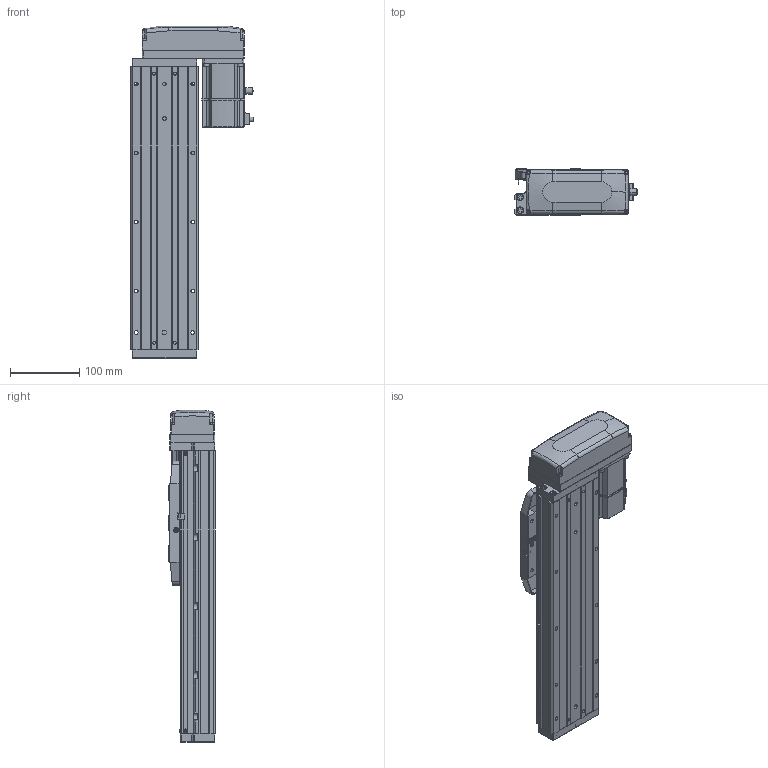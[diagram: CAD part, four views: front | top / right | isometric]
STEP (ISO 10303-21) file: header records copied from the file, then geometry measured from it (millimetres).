
FILE_DESCRIPTION (( 'STEP AP203' ), '1' );
FILE_NAME ('CTHA100-200-BL-M20-C4L.step', '2022-07-06T08:56:33', ( '微软用户' ), ( '微软中国' ), 'SwSTEP 2.0', 'SolidWorks 2020', '' );
FILE_SCHEMA (( 'CONFIG_CONTROL_DESIGN' ));
Length unit declared in the file: millimetre
Products named in the file (19): GBT77-2000 M3×3; CTHA86-030; KTHA100-004; GBT 70.1-M3℅6; GBT 70.3-M3℅6; CTHA100-200-BL-M20-C4L; KTHA100-005; GBT70.1 M5℅16; CTHA86-015-1_CTHA86-015-2; GB¨uT 70.2-M3¡Á5_M3¡Á6; CTHA60-016; CTHA86-033; EE_SX911P_R; _X2_4E0983F1_X0_200W_1; CTHA60-017; CTHA100-002; CTHA60-021; CTHA100-031; KTHA100-001_410
Assembly tree (64 placements, depth 2):
  CTHA100-200-BL-M20-C4L
    KTHA100-001_410
    KTHA100-004
    KTHA100-005
    GB¨uT 70.2-M3¡Á5_M3¡Á6  x10
    EE_SX911P_R  x3
    CTHA60-017  x3
    CTHA60-021  x2
    GBT77-2000 M3×3  x6
    GBT 70.1-M3℅6  x10
    GBT70.1 M5℅16  x14
    CTHA60-016  x2
    _X2_4E0983F1_X0_200W_1
    CTHA100-002
    CTHA100-031
    CTHA86-030  x2
    GBT 70.3-M3℅6  x4
    CTHA86-015-1_CTHA86-015-2
    CTHA86-033
Bounding box: 177.7 x 68 x 481 mm (x, y, z)
Volume: 2414631.3 mm3; surface area: 432889 mm2
Topology: 66 solids, 66 shells, 2609 faces, 6247 edges, 3868 vertices
Faces by surface type: plane 1356, cylinder 683, cone 347, torus 124, bspline 75, sphere 24
Entity records: 44054 total; most frequent: CARTESIAN_POINT 8699, DIRECTION 6764, ORIENTED_EDGE 6610, EDGE_CURVE 3305, AXIS2_PLACEMENT_3D 2305, VECTOR 2154, LINE 2154, VERTEX_POINT 2088
